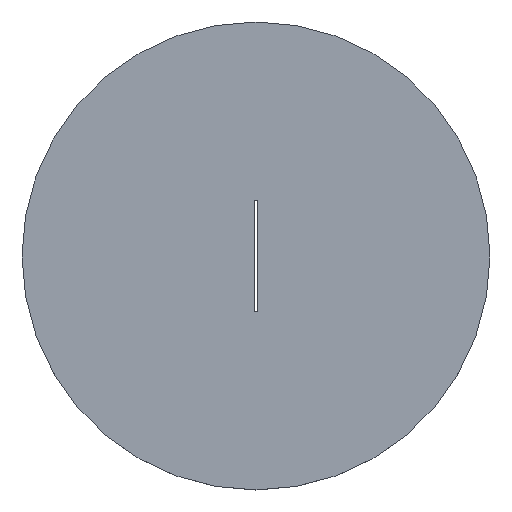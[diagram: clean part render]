
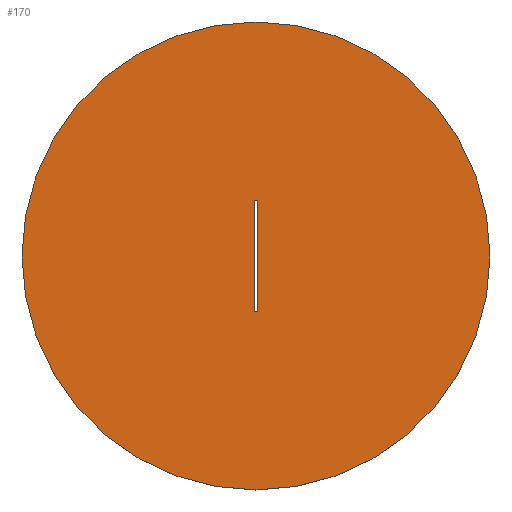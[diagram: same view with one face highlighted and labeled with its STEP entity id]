
A CAD part, top view. The second image highlights one B-rep face of the part: STEP entity #170.
In plain terms, the highlighted planar face has unit normal (0, 0, 1).
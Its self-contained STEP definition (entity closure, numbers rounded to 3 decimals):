
#35=CARTESIAN_POINT('',(0.,0.,0.7));
#36=DIRECTION('',(0.,0.,1.));
#37=DIRECTION('',(1.,0.,0.));
#38=AXIS2_PLACEMENT_3D('',#35,#36,#37);
#40=CARTESIAN_POINT('',(0.,0.,0.7));
#41=DIRECTION('',(0.,0.,1.));
#42=DIRECTION('',(-1.,0.,0.));
#43=AXIS2_PLACEMENT_3D('',#40,#41,#42);
#45=DIRECTION('',(0.,-1.,0.));
#46=VECTOR('',#45,3.);
#47=CARTESIAN_POINT('',(-0.05,1.5,0.7));
#48=LINE('',#47,#46);
#49=DIRECTION('',(1.,0.,0.));
#50=VECTOR('',#49,0.1);
#51=CARTESIAN_POINT('',(-0.05,-1.5,0.7));
#52=LINE('',#51,#50);
#53=DIRECTION('',(0.,1.,0.));
#54=VECTOR('',#53,3.);
#55=CARTESIAN_POINT('',(0.05,-1.5,0.7));
#56=LINE('',#55,#54);
#57=DIRECTION('',(-1.,0.,0.));
#58=VECTOR('',#57,0.1);
#59=CARTESIAN_POINT('',(0.05,1.5,0.7));
#60=LINE('',#59,#58);
#81=CARTESIAN_POINT('',(6.35,0.,0.7));
#82=CARTESIAN_POINT('',(-6.35,0.,0.7));
#83=VERTEX_POINT('',#81);
#84=VERTEX_POINT('',#82);
#93=CARTESIAN_POINT('',(-0.05,1.5,0.7));
#94=CARTESIAN_POINT('',(-0.05,-1.5,0.7));
#95=VERTEX_POINT('',#93);
#96=VERTEX_POINT('',#94);
#97=CARTESIAN_POINT('',(0.05,-1.5,0.7));
#98=VERTEX_POINT('',#97);
#99=CARTESIAN_POINT('',(0.05,1.5,0.7));
#100=VERTEX_POINT('',#99);
#151=CARTESIAN_POINT('',(0.,0.,0.7));
#152=DIRECTION('',(0.,0.,1.));
#153=DIRECTION('',(1.,0.,0.));
#154=AXIS2_PLACEMENT_3D('',#151,#152,#153);
#155=PLANE('',#154);
#156=ORIENTED_EDGE('',*,*,#131,.F.);
#157=ORIENTED_EDGE('',*,*,#145,.F.);
#158=EDGE_LOOP('',(#156,#157));
#159=FACE_OUTER_BOUND('',#158,.F.);
#161=ORIENTED_EDGE('',*,*,#160,.T.);
#163=ORIENTED_EDGE('',*,*,#162,.T.);
#165=ORIENTED_EDGE('',*,*,#164,.T.);
#167=ORIENTED_EDGE('',*,*,#166,.T.);
#168=EDGE_LOOP('',(#161,#163,#165,#167));
#169=FACE_BOUND('',#168,.F.);
#170=ADVANCED_FACE('',(#159,#169),#155,.T.);
#39=CIRCLE('',#38,6.35);
#44=CIRCLE('',#43,6.35);
#131=EDGE_CURVE('',#83,#84,#39,.T.);
#145=EDGE_CURVE('',#84,#83,#44,.T.);
#160=EDGE_CURVE('',#95,#96,#48,.T.);
#162=EDGE_CURVE('',#96,#98,#52,.T.);
#164=EDGE_CURVE('',#98,#100,#56,.T.);
#166=EDGE_CURVE('',#100,#95,#60,.T.);
